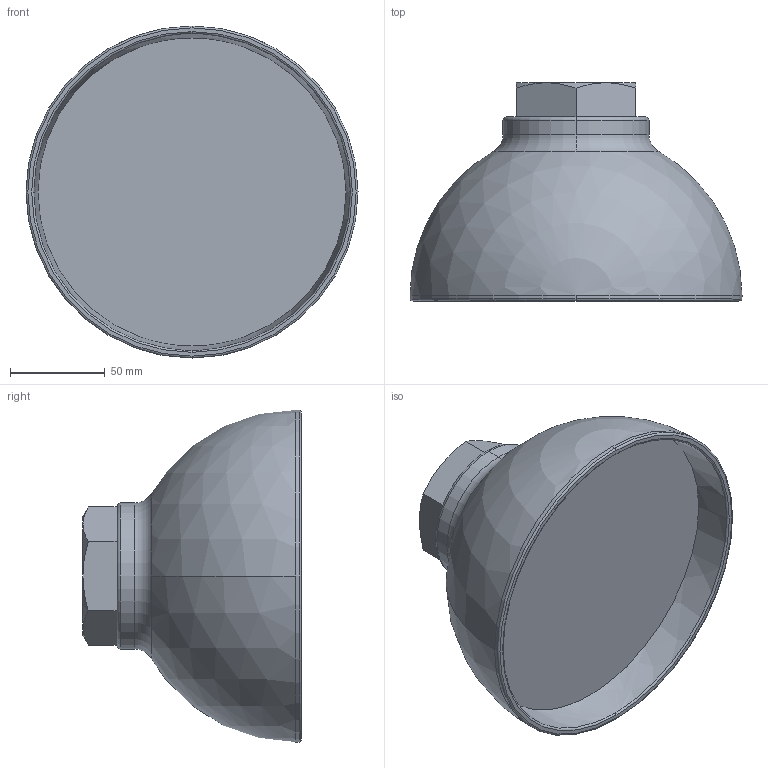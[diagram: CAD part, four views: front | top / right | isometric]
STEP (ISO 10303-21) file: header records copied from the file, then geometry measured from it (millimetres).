
FILE_DESCRIPTION (( 'STEP AP203' ), '1' );
FILE_NAME ('MS-2 40A.STEP', '2026-01-23T00:45:10', ( '' ), ( '' ), 'SwSTEP 2.0', 'SolidWorks 2024', '' );
FILE_SCHEMA (( 'CONFIG_CONTROL_DESIGN' ));
Length unit declared in the file: millimetre
Products named in the file (1): MS-2 40A
Bounding box: 175 x 115 x 175 mm (x, y, z)
Volume: 1110644.8 mm3; surface area: 94007.2 mm2
Topology: 1 solids, 1 shells, 38 faces, 86 edges, 51 vertices
Faces by surface type: cone 11, plane 11, torus 8, cylinder 4, sphere 4
Entity records: 1196 total; most frequent: CARTESIAN_POINT 258, DIRECTION 201, ORIENTED_EDGE 168, AXIS2_PLACEMENT_3D 90, EDGE_CURVE 84, VERTEX_POINT 51, CIRCLE 51, EDGE_LOOP 41
